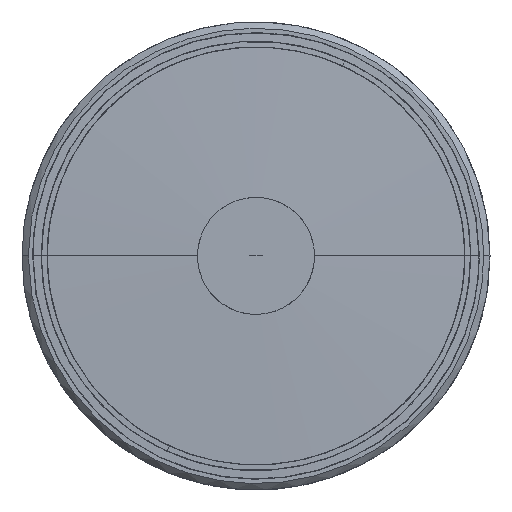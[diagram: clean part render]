
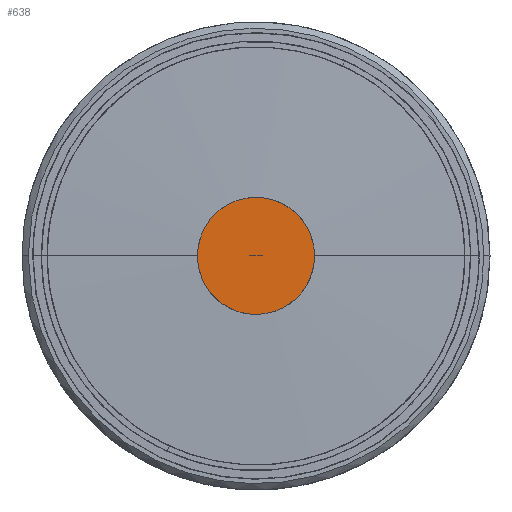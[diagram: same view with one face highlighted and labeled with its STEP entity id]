
A CAD part, top view. The second image highlights one B-rep face of the part: STEP entity #638.
In plain terms, the highlighted planar face has unit normal (0, 0, 1).
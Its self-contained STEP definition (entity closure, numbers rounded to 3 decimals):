
#638=ADVANCED_FACE('',(#1224),#8262,.T.);
#1224=FACE_OUTER_BOUND('',#1868,.T.);
#1868=EDGE_LOOP('',(#4211,#4212));
#4211=ORIENTED_EDGE('',*,*,#5757,.F.);
#4212=ORIENTED_EDGE('',*,*,#5753,.F.);
#5753=EDGE_CURVE('',#7972,#7973,#6491,.T.);
#5757=EDGE_CURVE('',#7973,#7972,#6493,.T.);
#6491=(
BOUNDED_CURVE()
B_SPLINE_CURVE(2,(#24004,#24005,#24006,#24007,#24008),.UNSPECIFIED.,.F.,
 .F.)
B_SPLINE_CURVE_WITH_KNOTS((3,2,3),(0.,43.197,86.394),
 .UNSPECIFIED.)
CURVE()
GEOMETRIC_REPRESENTATION_ITEM()
RATIONAL_B_SPLINE_CURVE((1.,0.707,1.,0.707,1.))
REPRESENTATION_ITEM('')
);
#6493=(
BOUNDED_CURVE()
B_SPLINE_CURVE(2,(#24018,#24019,#24020,#24021,#24022),.UNSPECIFIED.,.F.,
 .F.)
B_SPLINE_CURVE_WITH_KNOTS((3,2,3),(0.,43.197,86.394),
 .UNSPECIFIED.)
CURVE()
GEOMETRIC_REPRESENTATION_ITEM()
RATIONAL_B_SPLINE_CURVE((1.,0.707,1.,0.707,1.))
REPRESENTATION_ITEM('')
);
#7972=VERTEX_POINT('',#23936);
#7973=VERTEX_POINT('',#23937);
#8262=PLANE('',#8864);
#8864=AXIS2_PLACEMENT_3D('',#23809,#9057,$);
#9057=DIRECTION('',(0.,0.,1.));
#23809=CARTESIAN_POINT('',(-33.,-33.084,1008.916));
#23936=CARTESIAN_POINT('',(-27.5,-0.084,1008.916));
#23937=CARTESIAN_POINT('',(27.5,-0.084,1008.916));
#24004=CARTESIAN_POINT('',(-27.5,-0.084,1008.916));
#24005=CARTESIAN_POINT('',(-27.5,27.416,1008.916));
#24006=CARTESIAN_POINT('',(0.,27.416,1008.916));
#24007=CARTESIAN_POINT('',(27.5,27.416,1008.916));
#24008=CARTESIAN_POINT('',(27.5,-0.084,1008.916));
#24018=CARTESIAN_POINT('',(27.5,-0.084,1008.916));
#24019=CARTESIAN_POINT('',(27.5,-27.584,1008.916));
#24020=CARTESIAN_POINT('',(0.,-27.584,1008.916));
#24021=CARTESIAN_POINT('',(-27.5,-27.584,1008.916));
#24022=CARTESIAN_POINT('',(-27.5,-0.084,1008.916));
